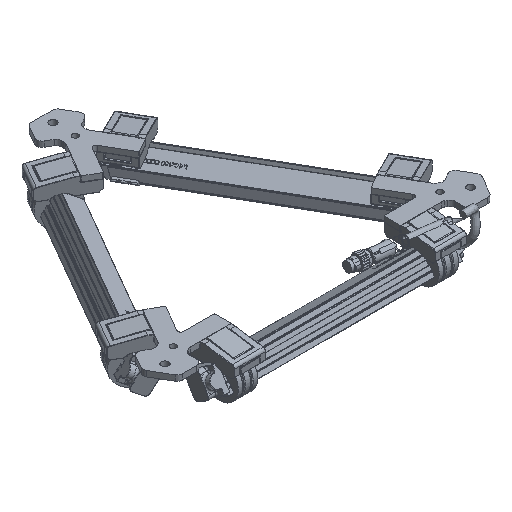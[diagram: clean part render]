
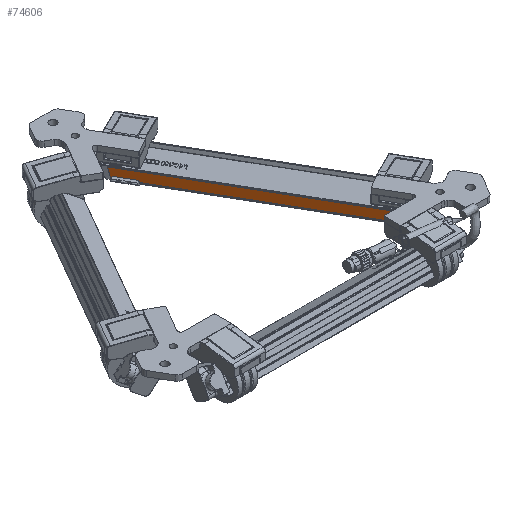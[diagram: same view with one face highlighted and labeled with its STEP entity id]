
A CAD part, isometric view. The second image highlights one B-rep face of the part: STEP entity #74606.
In plain terms, the highlighted planar face has unit normal (-0.75, -0.433, -0.5).
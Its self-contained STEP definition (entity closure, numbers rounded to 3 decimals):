
#4527=LINE('',#123796,#10734);
#4532=LINE('',#123811,#10739);
#4570=LINE('',#124019,#10777);
#4572=LINE('',#124023,#10779);
#4575=LINE('',#124031,#10782);
#4576=LINE('',#124033,#10783);
#4577=LINE('',#124035,#10784);
#4578=LINE('',#124036,#10785);
#10734=VECTOR('',#90954,10.);
#10739=VECTOR('',#90967,10.);
#10777=VECTOR('',#91089,10.);
#10779=VECTOR('',#91093,10.);
#10782=VECTOR('',#91102,10.);
#10783=VECTOR('',#91103,10.);
#10784=VECTOR('',#91104,10.);
#10785=VECTOR('',#91105,10.);
#15192=PLANE('',#79711);
#17820=FACE_OUTER_BOUND('',#22029,.T.);
#22029=EDGE_LOOP('',(#54698,#54699,#54700,#54701,#54702,#54703,#54704,#54705));
#31826=VERTEX_POINT('',#123793);
#31827=VERTEX_POINT('',#123795);
#31833=VERTEX_POINT('',#123809);
#31904=VERTEX_POINT('',#124016);
#31905=VERTEX_POINT('',#124018);
#31906=VERTEX_POINT('',#124022);
#31909=VERTEX_POINT('',#124032);
#31910=VERTEX_POINT('',#124034);
#39985=EDGE_CURVE('',#31826,#31827,#4527,.T.);
#39993=EDGE_CURVE('',#31833,#31826,#4532,.T.);
#40070=EDGE_CURVE('',#31904,#31905,#4570,.T.);
#40072=EDGE_CURVE('',#31827,#31906,#4572,.T.);
#40077=EDGE_CURVE('',#31833,#31905,#4575,.T.);
#40078=EDGE_CURVE('',#31909,#31904,#4576,.T.);
#40079=EDGE_CURVE('',#31910,#31909,#4577,.T.);
#40080=EDGE_CURVE('',#31910,#31906,#4578,.T.);
#54698=ORIENTED_EDGE('',*,*,#40072,.F.);
#54699=ORIENTED_EDGE('',*,*,#39985,.F.);
#54700=ORIENTED_EDGE('',*,*,#39993,.F.);
#54701=ORIENTED_EDGE('',*,*,#40077,.T.);
#54702=ORIENTED_EDGE('',*,*,#40070,.F.);
#54703=ORIENTED_EDGE('',*,*,#40078,.F.);
#54704=ORIENTED_EDGE('',*,*,#40079,.F.);
#54705=ORIENTED_EDGE('',*,*,#40080,.T.);
#74606=ADVANCED_FACE('',(#17820),#15192,.T.);
#79711=AXIS2_PLACEMENT_3D('',#124030,#91100,#91101);
#90954=DIRECTION('',(0.5,-0.866,0.));
#90967=DIRECTION('',(-0.433,-0.25,0.866));
#91089=DIRECTION('',(0.433,0.25,-0.866));
#91093=DIRECTION('',(0.433,0.25,-0.866));
#91100=DIRECTION('center_axis',(-0.75,-0.433,-0.5));
#91101=DIRECTION('ref_axis',(0.5,-0.866,0.));
#91102=DIRECTION('',(0.5,-0.866,0.));
#91103=DIRECTION('',(-0.5,0.866,0.));
#91104=DIRECTION('',(-0.433,-0.25,0.866));
#91105=DIRECTION('',(0.5,-0.866,0.));
#123793=CARTESIAN_POINT('',(11.745,-35.401,-15.766));
#123795=CARTESIAN_POINT('',(92.245,-174.831,-15.766));
#123796=CARTESIAN_POINT('',(72.116,-139.966,-15.766));
#123809=CARTESIAN_POINT('',(17.548,-32.051,-27.371));
#123811=CARTESIAN_POINT('',(14.647,-33.726,-21.568));
#124016=CARTESIAN_POINT('',(16.987,-33.76,-25.05));
#124018=CARTESIAN_POINT('',(18.148,-33.09,-27.371));
#124019=CARTESIAN_POINT('',(15.568,-34.579,-22.211));
#124022=CARTESIAN_POINT('',(98.048,-171.481,-27.371));
#124023=CARTESIAN_POINT('',(95.147,-173.156,-21.568));
#124030=CARTESIAN_POINT('Origin',(54.874,-103.402,-21.568));
#124031=CARTESIAN_POINT('',(37.631,-66.837,-27.371));
#124032=CARTESIAN_POINT('',(23.987,-45.884,-25.05));
#124033=CARTESIAN_POINT('',(39.801,-73.274,-25.05));
#124034=CARTESIAN_POINT('',(25.148,-45.214,-27.371));
#124035=CARTESIAN_POINT('',(22.568,-46.704,-22.211));
#124036=CARTESIAN_POINT('',(37.631,-66.837,-27.371));
